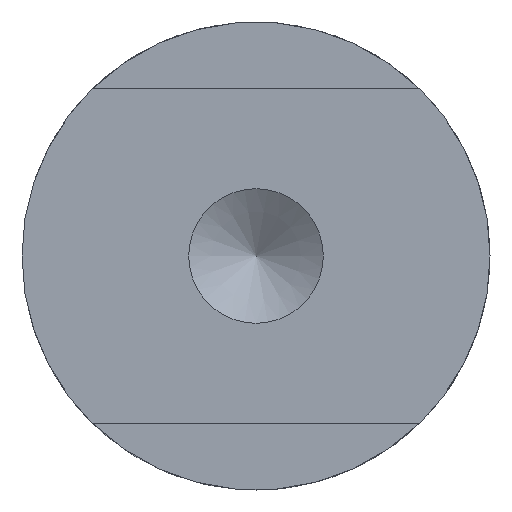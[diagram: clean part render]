
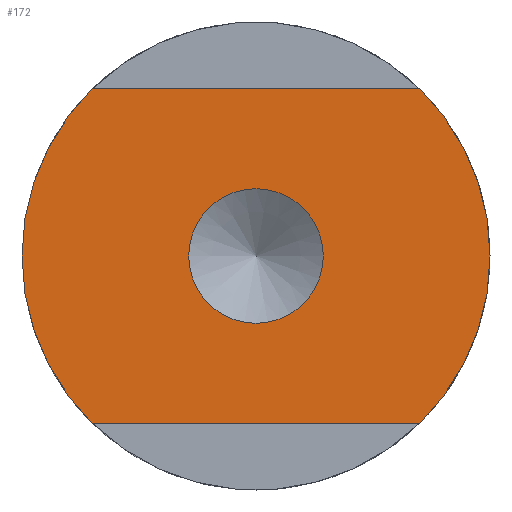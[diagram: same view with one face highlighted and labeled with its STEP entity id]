
A CAD part, front view. The second image highlights one B-rep face of the part: STEP entity #172.
In plain terms, the highlighted planar face has unit normal (0, -1, 0).
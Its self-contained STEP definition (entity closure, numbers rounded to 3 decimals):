
#17=FACE_BOUND('',#47,.T.);
#32=FACE_OUTER_BOUND('',#46,.T.);
#46=EDGE_LOOP('',(#142,#143,#144,#145));
#47=EDGE_LOOP('',(#146));
#62=LINE('',#274,#70);
#67=LINE('',#290,#75);
#70=VECTOR('',#216,4.899);
#75=VECTOR('',#233,4.899);
#78=CIRCLE('',#187,3.5);
#80=CIRCLE('',#189,3.5);
#81=CIRCLE('',#193,1.007);
#89=VERTEX_POINT('',#271);
#90=VERTEX_POINT('',#273);
#92=VERTEX_POINT('',#279);
#95=VERTEX_POINT('',#285);
#96=VERTEX_POINT('',#293);
#105=EDGE_CURVE('',#90,#89,#62,.T.);
#108=EDGE_CURVE('',#92,#90,#78,.T.);
#112=EDGE_CURVE('',#89,#95,#80,.T.);
#114=EDGE_CURVE('',#95,#92,#67,.T.);
#115=EDGE_CURVE('',#96,#96,#81,.T.);
#142=ORIENTED_EDGE('',*,*,#105,.T.);
#143=ORIENTED_EDGE('',*,*,#112,.T.);
#144=ORIENTED_EDGE('',*,*,#114,.T.);
#145=ORIENTED_EDGE('',*,*,#108,.T.);
#146=ORIENTED_EDGE('',*,*,#115,.T.);
#163=PLANE('',#192);
#172=ADVANCED_FACE('',(#32,#17),#163,.F.);
#187=AXIS2_PLACEMENT_3D('',#280,#222,#223);
#189=AXIS2_PLACEMENT_3D('',#287,#228,#229);
#192=AXIS2_PLACEMENT_3D('',#292,#236,#237);
#193=AXIS2_PLACEMENT_3D('',#294,#238,#239);
#216=DIRECTION('',(-1.,0.,0.));
#222=DIRECTION('center_axis',(0.,-1.,0.));
#223=DIRECTION('ref_axis',(1.,0.,0.));
#228=DIRECTION('center_axis',(0.,-1.,0.));
#229=DIRECTION('ref_axis',(1.,0.,0.));
#233=DIRECTION('',(1.,0.,0.));
#236=DIRECTION('center_axis',(0.,1.,0.));
#237=DIRECTION('ref_axis',(0.,0.,1.));
#238=DIRECTION('center_axis',(0.,1.,0.));
#239=DIRECTION('ref_axis',(1.,0.,0.));
#271=CARTESIAN_POINT('',(-2.449,-6.,2.5));
#273=CARTESIAN_POINT('',(2.449,-6.,2.5));
#274=CARTESIAN_POINT('',(-2.,-6.,2.5));
#279=CARTESIAN_POINT('',(2.449,-6.,-2.5));
#280=CARTESIAN_POINT('Origin',(0.,-6.,0.));
#285=CARTESIAN_POINT('',(-2.449,-6.,-2.5));
#287=CARTESIAN_POINT('Origin',(0.,-6.,0.));
#290=CARTESIAN_POINT('',(-2.,-6.,-2.5));
#292=CARTESIAN_POINT('Origin',(0.,-6.,0.));
#293=CARTESIAN_POINT('',(1.007,-6.,0.));
#294=CARTESIAN_POINT('Origin',(0.,-6.,0.));
